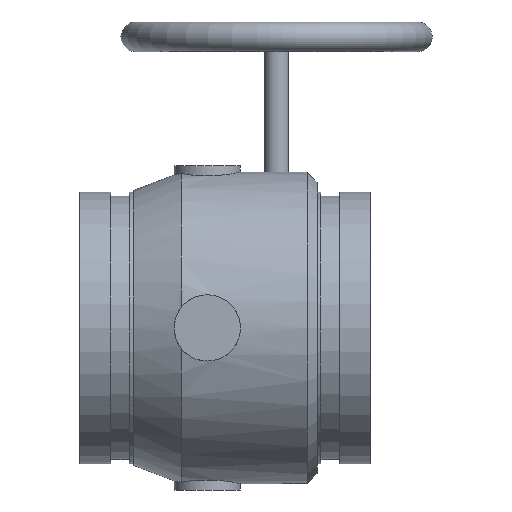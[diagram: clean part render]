
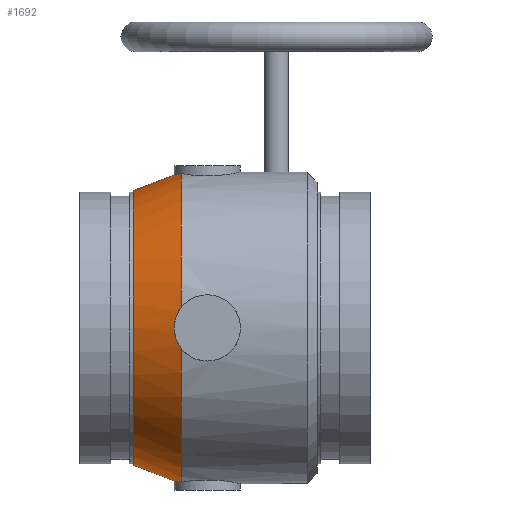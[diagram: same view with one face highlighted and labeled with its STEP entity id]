
A CAD part, front view. The second image highlights one B-rep face of the part: STEP entity #1692.
In plain terms, the highlighted conical face has half-angle 20.854 degrees and reference radius 75.317 mm.
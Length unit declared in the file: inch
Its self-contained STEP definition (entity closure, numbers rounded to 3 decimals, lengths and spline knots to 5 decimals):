
#25=B_SPLINE_CURVE_WITH_KNOTS('',3,(#2796,#2797,#2798,#2799,#2800,#2801,
#2802,#2803,#2804,#2805,#2806,#2807,#2808,#2809,#2810,#2811,#2812,#2813),
 .UNSPECIFIED.,.F.,.F.,(4,2,2,2,2,2,2,2,4),(3.2915,3.45304,
3.75633,4.05962,4.36291,4.6662,4.96949,
5.27278,5.43433),.UNSPECIFIED.);
#26=B_SPLINE_CURVE_WITH_KNOTS('',3,(#2820,#2821,#2822,#2823,#2824,#2825,
#2826,#2827,#2828,#2829),.UNSPECIFIED.,.F.,.F.,(4,2,2,2,4),(4.36291,
4.6662,4.96949,5.27278,5.43433),
 .UNSPECIFIED.);
#27=B_SPLINE_CURVE_WITH_KNOTS('',3,(#2835,#2836,#2837,#2838,#2839,#2840,
#2841,#2842,#2843,#2844),.UNSPECIFIED.,.F.,.F.,(4,2,2,2,4),(3.2915,
3.45304,3.75633,4.05962,4.36291),
 .UNSPECIFIED.);
#28=B_SPLINE_CURVE_WITH_KNOTS('',3,(#2845,#2846,#2847,#2848,#2849,#2850,
#2851,#2852,#2853,#2854,#2855,#2856,#2857,#2858,#2859,#2860,#2861,#2862),
 .UNSPECIFIED.,.F.,.F.,(4,2,2,2,2,2,2,2,4),(3.2915,3.45304,
3.75633,4.05962,4.36291,4.6662,4.96949,
5.27278,5.43433),.UNSPECIFIED.);
#46=CONICAL_SURFACE('',#1820,2.96524,0.364);
#105=CIRCLE('',#1809,3.15);
#106=CIRCLE('',#1810,3.15);
#108=CIRCLE('',#1812,3.15);
#109=CIRCLE('',#1813,3.15);
#113=CIRCLE('',#1821,2.78048);
#114=CIRCLE('',#1822,2.78048);
#115=CIRCLE('',#1823,3.15);
#214=FACE_OUTER_BOUND('',#307,.T.);
#307=EDGE_LOOP('',(#1138,#1139,#1140,#1141,#1142,#1143,#1144,#1145,#1146,
#1147,#1148,#1149,#1150));
#436=LINE('',#2831,#550);
#550=VECTOR('',#2081,2.96524);
#657=VERTEX_POINT('',#2556);
#658=VERTEX_POINT('',#2586);
#660=VERTEX_POINT('',#2617);
#661=VERTEX_POINT('',#2647);
#668=VERTEX_POINT('',#2688);
#669=VERTEX_POINT('',#2699);
#671=VERTEX_POINT('',#2731);
#672=VERTEX_POINT('',#2760);
#676=VERTEX_POINT('',#2819);
#677=VERTEX_POINT('',#2830);
#678=VERTEX_POINT('',#2832);
#835=EDGE_CURVE('',#657,#658,#105,.T.);
#838=EDGE_CURVE('',#660,#661,#106,.T.);
#846=EDGE_CURVE('',#668,#669,#108,.T.);
#849=EDGE_CURVE('',#671,#672,#109,.T.);
#853=EDGE_CURVE('',#660,#658,#25,.T.);
#856=EDGE_CURVE('',#676,#657,#26,.T.);
#857=EDGE_CURVE('',#676,#677,#436,.T.);
#858=EDGE_CURVE('',#677,#678,#113,.T.);
#859=EDGE_CURVE('',#678,#677,#114,.T.);
#860=EDGE_CURVE('',#672,#676,#27,.T.);
#861=EDGE_CURVE('',#671,#669,#28,.T.);
#862=EDGE_CURVE('',#661,#668,#115,.T.);
#1138=ORIENTED_EDGE('',*,*,#853,.T.);
#1139=ORIENTED_EDGE('',*,*,#835,.F.);
#1140=ORIENTED_EDGE('',*,*,#856,.F.);
#1141=ORIENTED_EDGE('',*,*,#857,.T.);
#1142=ORIENTED_EDGE('',*,*,#858,.T.);
#1143=ORIENTED_EDGE('',*,*,#859,.T.);
#1144=ORIENTED_EDGE('',*,*,#857,.F.);
#1145=ORIENTED_EDGE('',*,*,#860,.F.);
#1146=ORIENTED_EDGE('',*,*,#849,.F.);
#1147=ORIENTED_EDGE('',*,*,#861,.T.);
#1148=ORIENTED_EDGE('',*,*,#846,.F.);
#1149=ORIENTED_EDGE('',*,*,#862,.F.);
#1150=ORIENTED_EDGE('',*,*,#838,.F.);
#1692=ADVANCED_FACE('',(#214),#46,.T.);
#1809=AXIS2_PLACEMENT_3D('',#2587,#2054,#2055);
#1810=AXIS2_PLACEMENT_3D('',#2648,#2056,#2057);
#1812=AXIS2_PLACEMENT_3D('',#2700,#2062,#2063);
#1813=AXIS2_PLACEMENT_3D('',#2761,#2064,#2065);
#1820=AXIS2_PLACEMENT_3D('',#2818,#2079,#2080);
#1821=AXIS2_PLACEMENT_3D('',#2833,#2082,#2083);
#1822=AXIS2_PLACEMENT_3D('',#2834,#2084,#2085);
#1823=AXIS2_PLACEMENT_3D('',#2863,#2086,#2087);
#2054=DIRECTION('center_axis',(1.,0.,0.));
#2055=DIRECTION('ref_axis',(0.,0.,-1.));
#2056=DIRECTION('center_axis',(1.,0.,0.));
#2057=DIRECTION('ref_axis',(0.,0.,-1.));
#2062=DIRECTION('center_axis',(1.,0.,0.));
#2063=DIRECTION('ref_axis',(0.,0.,-1.));
#2064=DIRECTION('center_axis',(1.,0.,0.));
#2065=DIRECTION('ref_axis',(0.,0.,-1.));
#2079=DIRECTION('center_axis',(1.,0.,0.));
#2080=DIRECTION('ref_axis',(0.,1.,0.));
#2081=DIRECTION('',(-0.934,0.356,0.));
#2082=DIRECTION('center_axis',(1.,0.,0.));
#2083=DIRECTION('ref_axis',(0.,0.,-1.));
#2084=DIRECTION('center_axis',(1.,0.,0.));
#2085=DIRECTION('ref_axis',(0.,0.,-1.));
#2086=DIRECTION('center_axis',(1.,0.,0.));
#2087=DIRECTION('ref_axis',(0.,1.,0.));
#2556=CARTESIAN_POINT('',(-0.53,-3.12322,-0.40988));
#2586=CARTESIAN_POINT('',(-0.53,-0.40988,-3.12322));
#2587=CARTESIAN_POINT('Origin',(-0.53,0.,
0.));
#2617=CARTESIAN_POINT('',(-0.53,0.40988,-3.12322));
#2647=CARTESIAN_POINT('',(-0.53,3.12386,-0.405));
#2648=CARTESIAN_POINT('Origin',(-0.53,0.,
0.));
#2688=CARTESIAN_POINT('',(-0.53,3.12386,0.405));
#2699=CARTESIAN_POINT('',(-0.53,0.40988,3.12322));
#2700=CARTESIAN_POINT('Origin',(-0.53,0.,
0.));
#2731=CARTESIAN_POINT('',(-0.53,-0.40988,3.12322));
#2760=CARTESIAN_POINT('',(-0.53,-3.12322,0.40988));
#2761=CARTESIAN_POINT('Origin',(-0.53,0.,
0.));
#2796=CARTESIAN_POINT('Ctrl Pts',(-0.53,0.40988,
-3.12322));
#2797=CARTESIAN_POINT('Ctrl Pts',(-0.54323,0.39278,
-3.12038));
#2798=CARTESIAN_POINT('Ctrl Pts',(-0.55582,0.37478,
-3.11777));
#2799=CARTESIAN_POINT('Ctrl Pts',(-0.58967,0.32082,-3.11096));
#2800=CARTESIAN_POINT('Ctrl Pts',(-0.60881,0.28292,
-3.10737));
#2801=CARTESIAN_POINT('Ctrl Pts',(-0.63955,0.20413,
-3.1018));
#2802=CARTESIAN_POINT('Ctrl Pts',(-0.65117,0.16318,
-3.09982));
#2803=CARTESIAN_POINT('Ctrl Pts',(-0.66639,0.08102,
-3.09725));
#2804=CARTESIAN_POINT('Ctrl Pts',(-0.67,0.0398,-3.09667));
#2805=CARTESIAN_POINT('Ctrl Pts',(-0.67,-0.0398,-3.09667));
#2806=CARTESIAN_POINT('Ctrl Pts',(-0.66639,-0.08102,
-3.09725));
#2807=CARTESIAN_POINT('Ctrl Pts',(-0.65117,-0.16318,
-3.09982));
#2808=CARTESIAN_POINT('Ctrl Pts',(-0.63955,-0.20413,
-3.1018));
#2809=CARTESIAN_POINT('Ctrl Pts',(-0.60881,-0.28292,
-3.10737));
#2810=CARTESIAN_POINT('Ctrl Pts',(-0.58967,-0.32082,
-3.11096));
#2811=CARTESIAN_POINT('Ctrl Pts',(-0.55582,-0.37478,
-3.11777));
#2812=CARTESIAN_POINT('Ctrl Pts',(-0.54323,-0.39278,
-3.12038));
#2813=CARTESIAN_POINT('Ctrl Pts',(-0.53,-0.40988,
-3.12322));
#2818=CARTESIAN_POINT('Origin',(-1.015,0.,0.));
#2819=CARTESIAN_POINT('',(-0.67,-3.09667,0.));
#2820=CARTESIAN_POINT('Ctrl Pts',(-0.67,-3.09667,0.));
#2821=CARTESIAN_POINT('Ctrl Pts',(-0.67,-3.09667,-0.0398));
#2822=CARTESIAN_POINT('Ctrl Pts',(-0.66639,-3.09725,
-0.08102));
#2823=CARTESIAN_POINT('Ctrl Pts',(-0.65117,-3.09982,
-0.16318));
#2824=CARTESIAN_POINT('Ctrl Pts',(-0.63955,-3.1018,
-0.20413));
#2825=CARTESIAN_POINT('Ctrl Pts',(-0.60881,-3.10737,
-0.28292));
#2826=CARTESIAN_POINT('Ctrl Pts',(-0.58967,-3.11096,
-0.32082));
#2827=CARTESIAN_POINT('Ctrl Pts',(-0.55582,-3.11777,
-0.37478));
#2828=CARTESIAN_POINT('Ctrl Pts',(-0.54323,-3.12038,
-0.39278));
#2829=CARTESIAN_POINT('Ctrl Pts',(-0.53,-3.12322,
-0.40988));
#2830=CARTESIAN_POINT('',(-1.5,-2.78048,0.));
#2831=CARTESIAN_POINT('',(-1.015,-2.96524,0.));
#2832=CARTESIAN_POINT('',(-1.5,2.78048,0.));
#2833=CARTESIAN_POINT('Origin',(-1.5,0.,0.));
#2834=CARTESIAN_POINT('Origin',(-1.5,0.,0.));
#2835=CARTESIAN_POINT('Ctrl Pts',(-0.53,-3.12322,
0.40988));
#2836=CARTESIAN_POINT('Ctrl Pts',(-0.54323,-3.12038,
0.39278));
#2837=CARTESIAN_POINT('Ctrl Pts',(-0.55582,-3.11777,
0.37478));
#2838=CARTESIAN_POINT('Ctrl Pts',(-0.58967,-3.11096,
0.32082));
#2839=CARTESIAN_POINT('Ctrl Pts',(-0.60881,-3.10737,
0.28292));
#2840=CARTESIAN_POINT('Ctrl Pts',(-0.63955,-3.1018,
0.20413));
#2841=CARTESIAN_POINT('Ctrl Pts',(-0.65117,-3.09982,
0.16318));
#2842=CARTESIAN_POINT('Ctrl Pts',(-0.66639,-3.09725,
0.08102));
#2843=CARTESIAN_POINT('Ctrl Pts',(-0.67,-3.09667,0.0398));
#2844=CARTESIAN_POINT('Ctrl Pts',(-0.67,-3.09667,0.));
#2845=CARTESIAN_POINT('Ctrl Pts',(-0.53,-0.40988,
3.12322));
#2846=CARTESIAN_POINT('Ctrl Pts',(-0.54323,-0.39278,
3.12038));
#2847=CARTESIAN_POINT('Ctrl Pts',(-0.55582,-0.37478,
3.11777));
#2848=CARTESIAN_POINT('Ctrl Pts',(-0.58967,-0.32082,
3.11096));
#2849=CARTESIAN_POINT('Ctrl Pts',(-0.60881,-0.28292,
3.10737));
#2850=CARTESIAN_POINT('Ctrl Pts',(-0.63955,-0.20413,
3.1018));
#2851=CARTESIAN_POINT('Ctrl Pts',(-0.65117,-0.16318,
3.09982));
#2852=CARTESIAN_POINT('Ctrl Pts',(-0.66639,-0.08102,
3.09725));
#2853=CARTESIAN_POINT('Ctrl Pts',(-0.67,-0.0398,3.09667));
#2854=CARTESIAN_POINT('Ctrl Pts',(-0.67,0.0398,3.09667));
#2855=CARTESIAN_POINT('Ctrl Pts',(-0.66639,0.08102,
3.09725));
#2856=CARTESIAN_POINT('Ctrl Pts',(-0.65117,0.16318,
3.09982));
#2857=CARTESIAN_POINT('Ctrl Pts',(-0.63955,0.20413,
3.1018));
#2858=CARTESIAN_POINT('Ctrl Pts',(-0.60881,0.28292,
3.10737));
#2859=CARTESIAN_POINT('Ctrl Pts',(-0.58967,0.32082,3.11096));
#2860=CARTESIAN_POINT('Ctrl Pts',(-0.55582,0.37478,
3.11777));
#2861=CARTESIAN_POINT('Ctrl Pts',(-0.54323,0.39278,
3.12038));
#2862=CARTESIAN_POINT('Ctrl Pts',(-0.53,0.40988,
3.12322));
#2863=CARTESIAN_POINT('Origin',(-0.53,0.,
0.));
